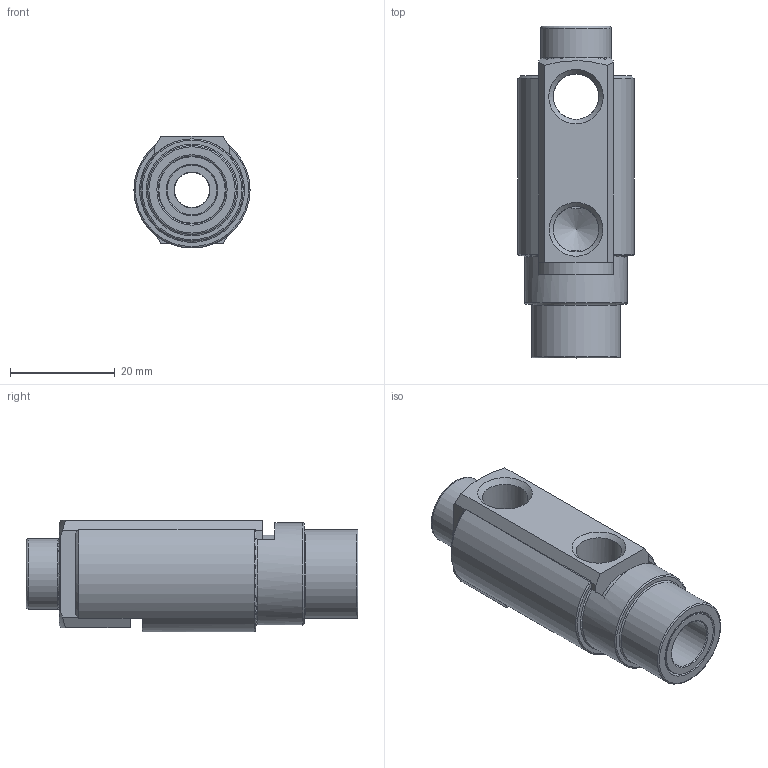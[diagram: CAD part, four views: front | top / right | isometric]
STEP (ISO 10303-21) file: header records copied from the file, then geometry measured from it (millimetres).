
FILE_DESCRIPTION(/* description */ (''),/* implementation_level */ '2;1');
FILE_NAME(/* name */ 'C:/Users/drich/Desktop/CAD FILES/SINCE 1-10-20/Rear Load Cascades/Quick Coupler Type/Head Only/SC181H-RL v2.step',/* time_stamp */ '2020-01-12T14:45:20-06:00',/* author */ (''),/* organization */ (''),/* preprocessor_version */ 'ST-DEVELOPER v18',/* originating_system */ 'Autodesk Translation Framework v8.12.0.6',/* authorisation */ '');
FILE_SCHEMA (('AUTOMOTIVE_DESIGN { 1 0 10303 214 3 1 1 }'));
Length unit declared in the file: inch
Products named in the file (4): SC181H-RL; SC181H-RL HEAD; black seal; SC181H Sleeve
Assembly tree (3 placements, depth 3):
  SC181H-RL
    SC181H-RL HEAD
      black seal
      SC181H Sleeve
Bounding box: 22.2 x 63.5 x 21.41 mm (x, y, z)
Volume: 14862.5 mm3; surface area: 11181.6 mm2
Topology: 3 solids, 3 shells, 78 faces, 225 edges, 155 vertices
Faces by surface type: plane 35, cylinder 20, cone 15, torus 8
Full cylindrical faces by diameter (mm): 6.697 x1, 6.731 x2, 6.858 x1, 8.707 x4, 9.5 x1, 9.652 x1, 12.7 x1, 12.954 x1, 13.462 x1, 15.165 x1, 17.018 x1, 19.558 x1
Entity records: 2913 total; most frequent: CARTESIAN_POINT 688, DIRECTION 472, ORIENTED_EDGE 448, EDGE_CURVE 224, AXIS2_PLACEMENT_3D 197, VERTEX_POINT 155, CIRCLE 106, EDGE_LOOP 93
